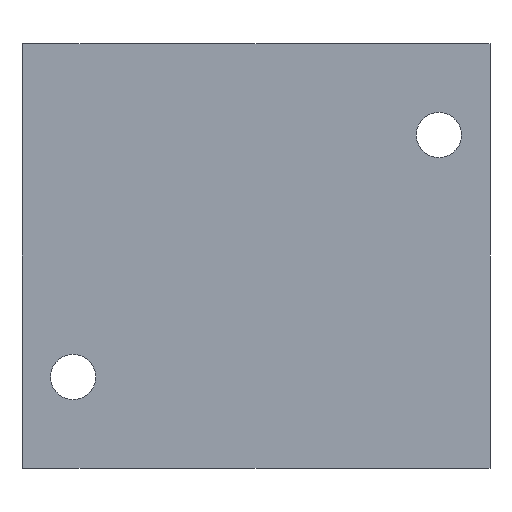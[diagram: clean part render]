
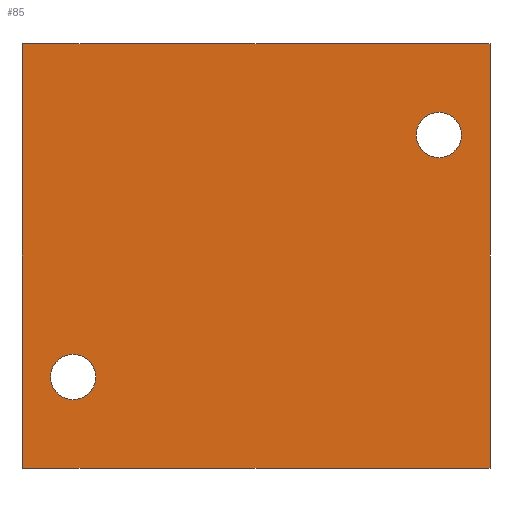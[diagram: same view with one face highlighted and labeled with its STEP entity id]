
A CAD part, front view. The second image highlights one B-rep face of the part: STEP entity #85.
In plain terms, the highlighted planar face has unit normal (0, -1, 0).
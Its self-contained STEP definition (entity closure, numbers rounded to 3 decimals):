
#85=ADVANCED_FACE('',(#189,#190,#191),#192,.T.);
#189=FACE_BOUND('',#441,.T.);
#190=FACE_BOUND('',#442,.T.);
#191=FACE_OUTER_BOUND('',#443,.T.);
#192=PLANE('',#444);
#441=EDGE_LOOP('',(#750));
#442=EDGE_LOOP('',(#751));
#443=EDGE_LOOP('',(#752,#753,#754,#755));
#444=AXIS2_PLACEMENT_3D('',#756,#757,#758);
#750=ORIENTED_EDGE('',*,*,#1294,.T.);
#751=ORIENTED_EDGE('',*,*,#1295,.T.);
#752=ORIENTED_EDGE('',*,*,#1296,.F.);
#753=ORIENTED_EDGE('',*,*,#1297,.F.);
#754=ORIENTED_EDGE('',*,*,#1298,.T.);
#755=ORIENTED_EDGE('',*,*,#1292,.T.);
#756=CARTESIAN_POINT('',(43.5,-35.0,39.5));
#757=DIRECTION('',(0.0,-1.0,0.0));
#758=DIRECTION('',(1.0,0.0,0.0));
#1292=EDGE_CURVE('',#1483,#1481,#1484,.T.);
#1294=EDGE_CURVE('',#1486,#1486,#1487,.T.);
#1295=EDGE_CURVE('',#1488,#1488,#1489,.T.);
#1296=EDGE_CURVE('',#1490,#1481,#1491,.T.);
#1297=EDGE_CURVE('',#1492,#1490,#1493,.T.);
#1298=EDGE_CURVE('',#1492,#1483,#1494,.T.);
#1481=VERTEX_POINT('',#1815);
#1483=VERTEX_POINT('',#1818);
#1484=LINE('',#1819,#1820);
#1486=VERTEX_POINT('',#1823);
#1487=CIRCLE('',#1824,4.2);
#1488=VERTEX_POINT('',#1825);
#1489=CIRCLE('',#1826,4.2);
#1490=VERTEX_POINT('',#1827);
#1491=LINE('',#1828,#1829);
#1492=VERTEX_POINT('',#1830);
#1493=LINE('',#1831,#1832);
#1494=LINE('',#1833,#1834);
#1815=CARTESIAN_POINT('',(-43.5,-35.0,-39.5));
#1818=CARTESIAN_POINT('',(-43.5,-35.0,39.5));
#1819=CARTESIAN_POINT('',(-43.5,-35.0,39.5));
#1820=VECTOR('',#2091,1.0);
#1823=CARTESIAN_POINT('',(34.0,-35.0,26.7));
#1824=AXIS2_PLACEMENT_3D('',#2093,#2094,#2095);
#1825=CARTESIAN_POINT('',(-34.0,-35.0,-26.7));
#1826=AXIS2_PLACEMENT_3D('',#2096,#2097,#2098);
#1827=CARTESIAN_POINT('',(43.5,-35.0,-39.5));
#1828=CARTESIAN_POINT('',(43.5,-35.0,-39.5));
#1829=VECTOR('',#2099,1.0);
#1830=CARTESIAN_POINT('',(43.5,-35.0,39.5));
#1831=CARTESIAN_POINT('',(43.5,-35.0,39.5));
#1832=VECTOR('',#2100,1.0);
#1833=CARTESIAN_POINT('',(43.5,-35.0,39.5));
#1834=VECTOR('',#2101,1.0);
#2091=DIRECTION('',(0.0,0.0,-1.0));
#2093=CARTESIAN_POINT('',(34.0,-35.0,22.5));
#2094=DIRECTION('',(0.0,1.0,0.0));
#2095=DIRECTION('',(0.,0.0,1.0));
#2096=CARTESIAN_POINT('',(-34.0,-35.0,-22.5));
#2097=DIRECTION('',(0.0,1.0,0.0));
#2098=DIRECTION('',(0.0,0.0,-1.0));
#2099=DIRECTION('',(-1.0,0.0,0.0));
#2100=DIRECTION('',(0.0,0.0,-1.0));
#2101=DIRECTION('',(-1.0,0.0,0.0));
